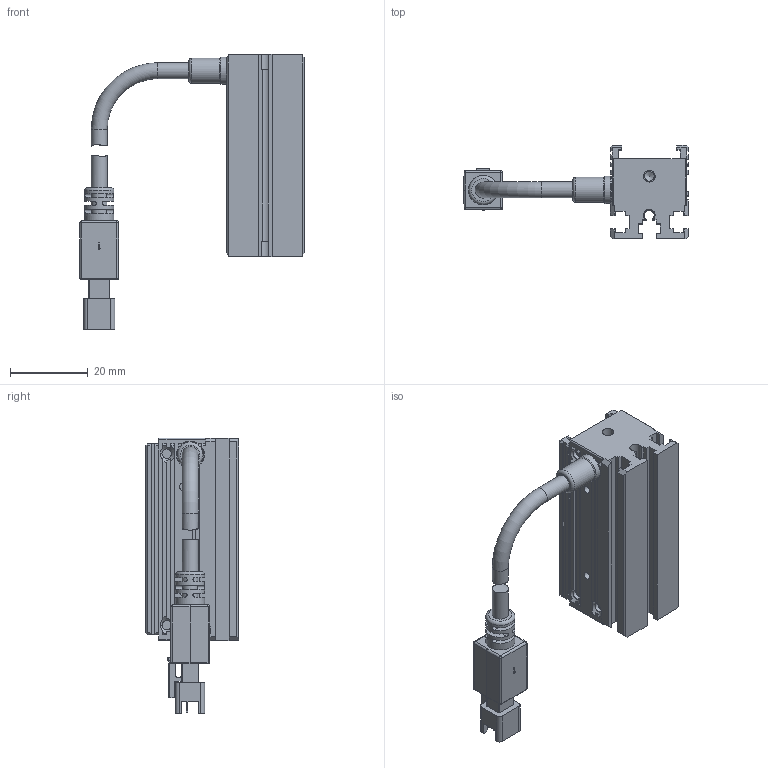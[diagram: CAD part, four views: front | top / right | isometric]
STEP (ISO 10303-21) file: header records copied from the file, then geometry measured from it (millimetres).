
FILE_DESCRIPTION (( 'STEP AP203' ), '1' );
FILE_NAME ('OPT-ULI5220W-UV-V1.0尨砩芞.STEP', '2024-12-11T03:15:27', ( '' ), ( '' ), 'SwSTEP 2.0', 'SolidWorks 2016', '' );
FILE_SCHEMA (( 'CONFIG_CONTROL_DESIGN' ));
Length unit declared in the file: millimetre
Products named in the file (1): OPT-ULI5220W-UV-V1.0尨砩芞
Bounding box: 57.6 x 24 x 70.8 mm (x, y, z)
Volume: 21020 mm3; surface area: 12782.8 mm2
Topology: 6 solids, 14 shells, 579 faces, 1511 edges, 971 vertices
Faces by surface type: plane 388, cylinder 134, cone 28, bspline 21, torus 8
Full cylindrical faces by diameter (mm): 1.1 x2, 1.4 x2, 1.6 x7, 2 x11, 2.4 x7, 2.5 x2, 3 x2, 3.5 x1, 4.1 x4, 6.5 x1, 7 x1, 7.5 x1
Entity records: 17806 total; most frequent: CARTESIAN_POINT 4154, ORIENTED_EDGE 2806, DIRECTION 2704, EDGE_CURVE 1403, VECTOR 960, LINE 960, VERTEX_POINT 936, AXIS2_PLACEMENT_3D 872
